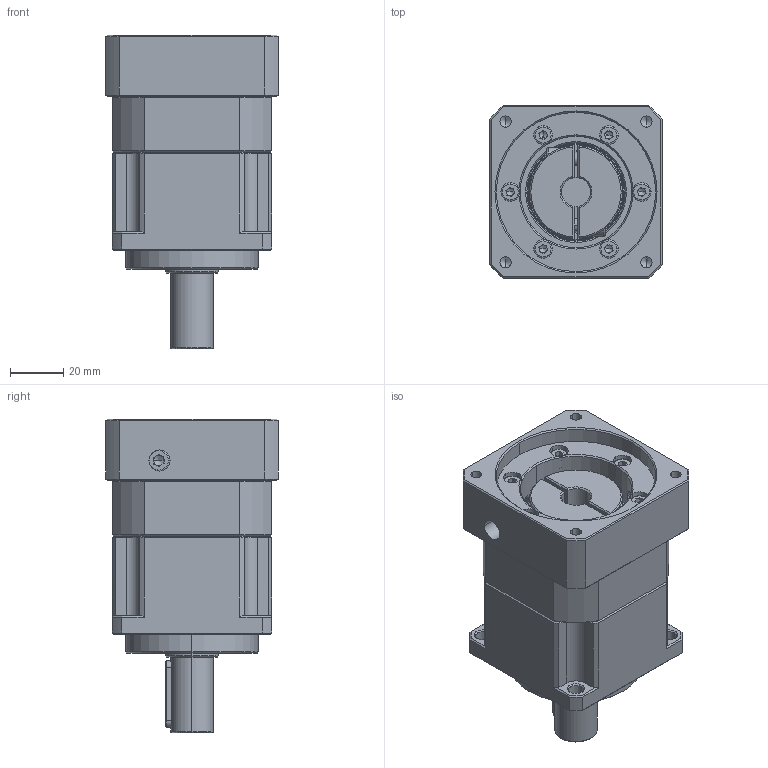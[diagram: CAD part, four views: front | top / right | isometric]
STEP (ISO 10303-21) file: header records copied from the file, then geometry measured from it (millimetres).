
FILE_DESCRIPTION (( 'STEP AP214' ), '1' );
FILE_NAME ('ZPB060-D16-L1-P1-11-60-75-M5.step', '2024-04-23T16:09:25', ( 'Windows 蚚誧' ), ( 'Organization' ), 'SwSTEP 2.0', 'SolidWorks 2016', '' );
FILE_SCHEMA (( 'AUTOMOTIVE_DESIGN' ));
Length unit declared in the file: millimetre
Products named in the file (1): ZPB060-D16-L1-P1-11-60-75-M5
Bounding box: 65 x 65 x 118 mm (x, y, z)
Volume: 251602.3 mm3; surface area: 74339.6 mm2
Topology: 16 solids, 17 shells, 2037 faces, 5741 edges, 3711 vertices
Faces by surface type: plane 1048, bspline 373, cylinder 301, cone 173, torus 96, sphere 46
Entity records: 107274 total; most frequent: CARTESIAN_POINT 35596, ORIENTED_EDGE 11144, DIRECTION 8675, EDGE_CURVE 5572, VERTEX_POINT 3642, VECTOR 3337, LINE 3337, AXIS2_PLACEMENT_3D 2669
